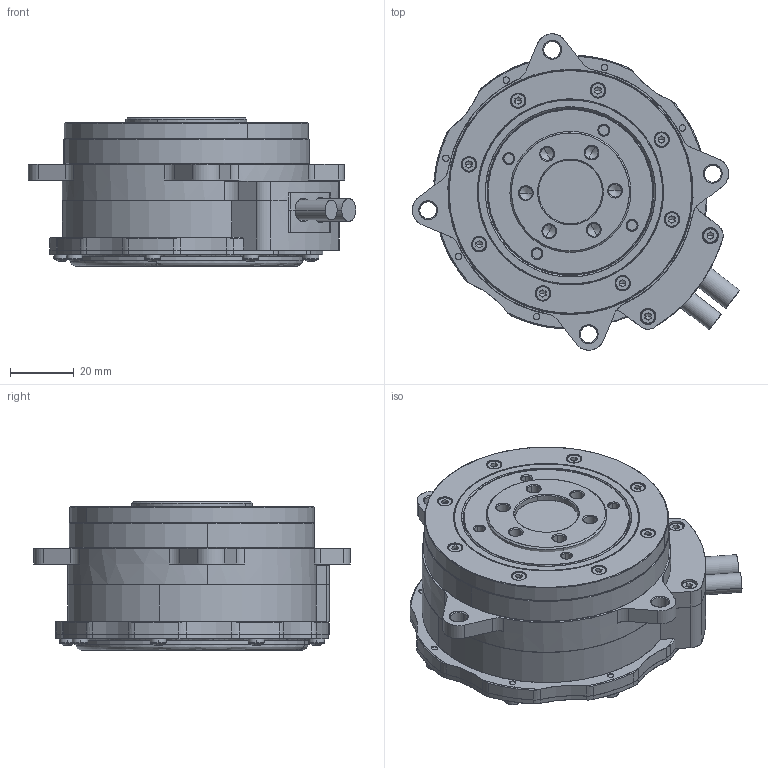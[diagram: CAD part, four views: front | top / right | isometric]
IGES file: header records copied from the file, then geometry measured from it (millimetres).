
Start section: SolidWorks IGES file using analytic representation for surfaces
Bounding box: 102.76 x 99.27 x 46.5 mm (x, y, z)
Surface area: 86866.2 mm2 (no closed solid volume)
Topology: 0 solids, 0 shells, 1636 faces, 23562 edges, 23514 vertices
Faces by surface type: revolution 1006, bspline 630
